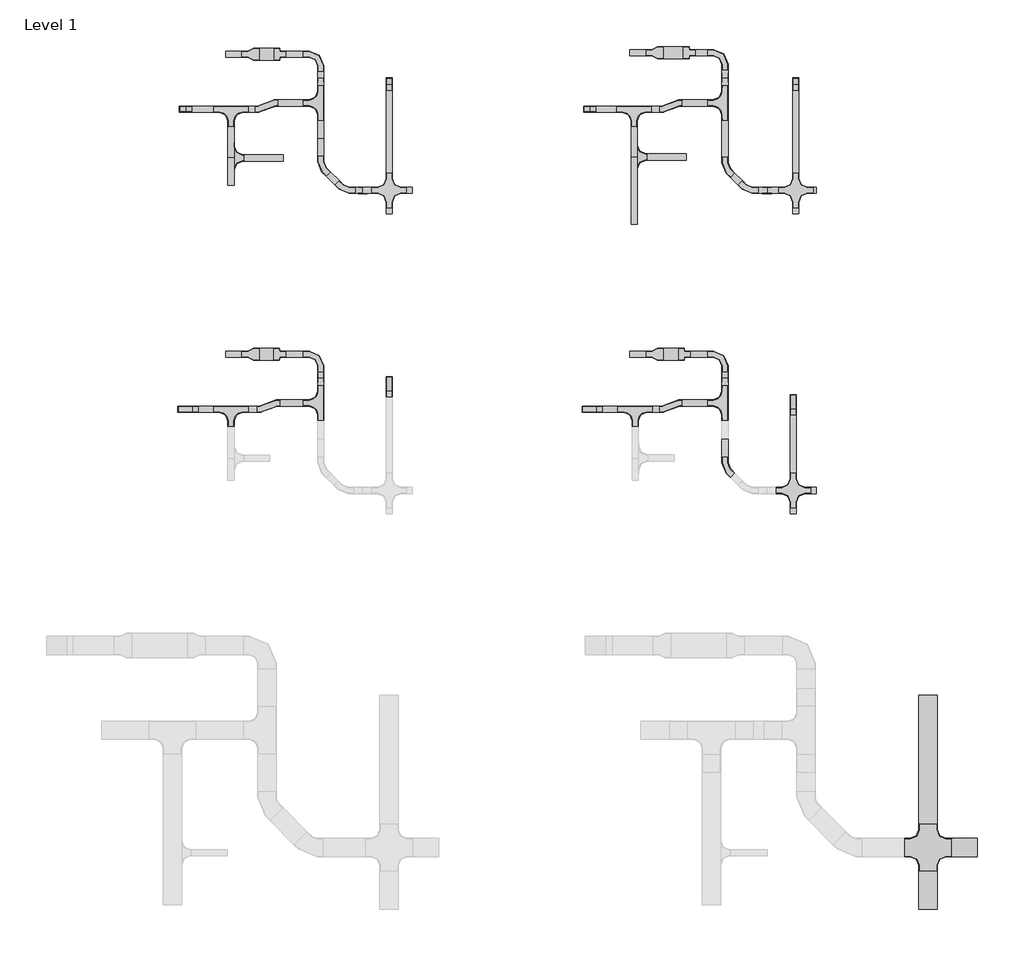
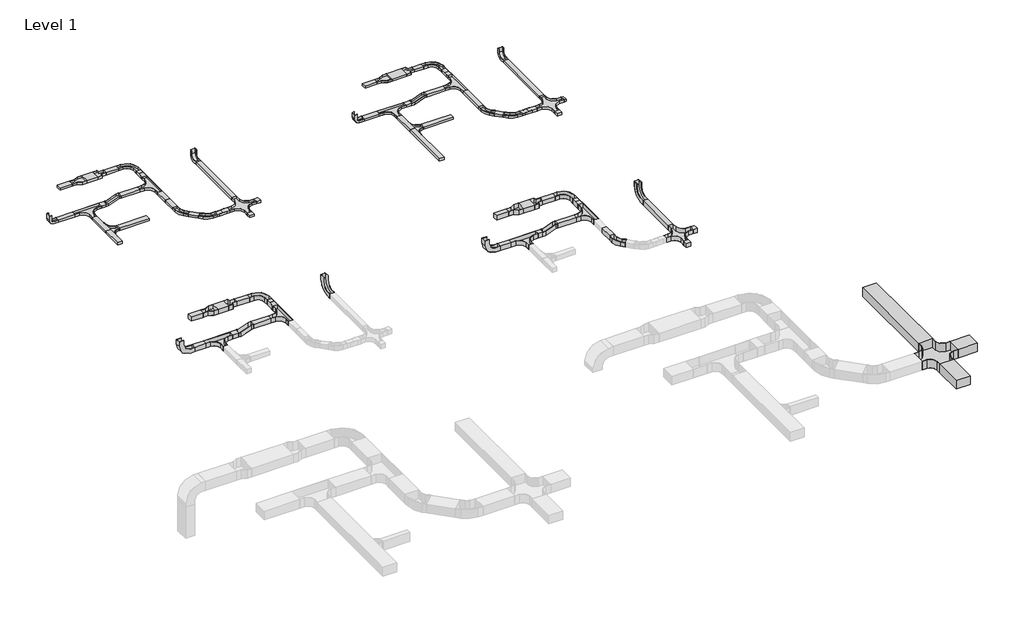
# One storey, part 7 of 7: 60 cable carrier segments, 49 cable carrier fittings.
"""IFC4 building model written with IfcOpenShell, lengths in millimetres."""

from ifc_helpers import new_model, si_unit, frame, origin, origin_with_axes, place, context, project, spatial, polyline, outline, extrude, transform, mapped, element, save
from components import cable_carrier_fitting_aaacfa07, cable_carrier_fitting_b0ef1419, cable_carrier_fitting_c29a8226, cable_carrier_fitting_cc7a867a, cable_carrier_fitting_e87cdf85, cable_carrier_fitting_c2d22de5, cable_carrier_fitting_a196cc36, cable_carrier_fitting_4de17e9c, cable_carrier_fitting_7e9f8960, cable_carrier_fitting_9eb58628, cable_carrier_fitting_43fa0a0a, cable_carrier_fitting_37f5b24e, cable_carrier_fitting_3771e234, cable_carrier_fitting_3d14474d, cable_carrier_fitting_1d79b922, cable_carrier_fitting_02b181c7, cable_carrier_fitting_d4cb8d73, cable_carrier_fitting_69659a00, cable_carrier_fitting_f591b558, cable_carrier_fitting_a9251f7c, cable_carrier_fitting_ed02f7b7, cable_carrier_fitting_6664680e, rkh100_6825da00, rkh100_78735ad3, rkh50_caab6538, rkh50_498854c9

model = new_model("IFC4")

# Units and contexts
model_context = context("Model", 3, world=origin())
ifc_project = project(units=[si_unit("LENGTHUNIT", "METRE", prefix="MILLI")], contexts=[model_context])

# Site, building, storey
site = spatial("IfcSite", under=ifc_project)
building = spatial("IfcBuilding", under=site)
storey = spatial("IfcBuildingStorey", under=building, Name="Level 1", Elevation=0.0)

# Cable carrier fittings
placement = place(None, origin())
cable_carrier_fitting_shape = cable_carrier_fitting_aaacfa07(model_context)
element("IfcCableCarrierFitting", 1, ObjectType="BAKS_Plate_connector : LZCH100", at=placement, inside=storey, context=model_context, shape_type="MappedRepresentation", body=[
    mapped(cable_carrier_fitting_shape, transform((-17370.1659964, 64549.0221963, 50.0), x_axis=(0.0, -1.0, 0.0), y_axis=(1.0, 0.0, 0.0), z_axis=(0.0, 0.0, 1.0))),
])
element("IfcCableCarrierFitting", 2, ObjectType="BAKS_Plate_connector : LZCH100", at=placement, inside=storey, context=model_context, shape_type="MappedRepresentation", body=[
    mapped(cable_carrier_fitting_shape, transform((-10770.1659964, 64549.0221963, 50.0), x_axis=(0.0, -1.0, 0.0), y_axis=(1.0, 0.0, 0.0), z_axis=(0.0, 0.0, 1.0))),
])
cable_carrier_fitting_2_shape = cable_carrier_fitting_b0ef1419(model_context)
element("IfcCableCarrierFitting", 3, ObjectType="BAKS_Plate_connector : LZCH50", at=placement, inside=storey, context=model_context, shape_type="MappedRepresentation", body=[
    mapped(cable_carrier_fitting_2_shape, transform((-17370.1659964, 69449.0221963, 50.0), x_axis=(0.0, -1.0, 0.0), y_axis=(1.0, 0.0, 0.0), z_axis=(0.0, 0.0, 1.0))),
])
element("IfcCableCarrierFitting", 4, ObjectType="BAKS_Plate_connector : LZCH50", at=placement, inside=storey, context=model_context, shape_type="MappedRepresentation", body=[
    mapped(cable_carrier_fitting_2_shape, transform((-16681.6917019, 67608.6669458, 50.0), x_axis=(-1.0, 0.0, 0.0), y_axis=(0.0, -1.0, 0.0), z_axis=(0.0, 0.0, 1.0))),
])
element("IfcCableCarrierFitting", 5, ObjectType="BAKS_Plate_connector : LZCH50", at=placement, inside=storey, context=model_context, shape_type="MappedRepresentation", body=[
    mapped(cable_carrier_fitting_2_shape, transform((-10770.1659964, 69449.0221963, 50.0), x_axis=(0.0, -1.0, 0.0), y_axis=(1.0, 0.0, 0.0), z_axis=(0.0, 0.0, 1.0))),
])
element("IfcCableCarrierFitting", 6, ObjectType="BAKS_Plate_connector : LZCH50", at=placement, inside=storey, context=model_context, shape_type="MappedRepresentation", body=[
    mapped(cable_carrier_fitting_2_shape, transform((-10081.6917019, 67608.6669458, 50.0), x_axis=(-1.0, 0.0, 0.0), y_axis=(0.0, -1.0, 0.0), z_axis=(0.0, 0.0, 1.0))),
])
cable_carrier_fitting_3_shape = cable_carrier_fitting_c29a8226(model_context)
element("IfcCableCarrierFitting", 7, ObjectType="BAKS_Tee_TKZD : TKZDCH50", at=placement, inside=storey, context=model_context, shape_type="MappedRepresentation", body=[
    mapped(cable_carrier_fitting_3_shape, transform((-18785.25983, 68137.8311496, 50.0), x_axis=(0.0, 1.0, 0.0), y_axis=(-1.0, 0.0, 0.0), z_axis=(0.0, 0.0, 1.0))),
])
element("IfcCableCarrierFitting", 8, ObjectType="BAKS_Tee_TKZD : TKZDPH50", at=placement, inside=storey, context=model_context, shape_type="MappedRepresentation", body=[
    mapped(cable_carrier_fitting_3_shape, transform((-12204.0106561, 68153.9153323, 50.0), x_axis=(0.0, 1.0, 0.0), y_axis=(-1.0, 0.0, 0.0), z_axis=(0.0, 0.0, 1.0))),
])
cable_carrier_fitting_4_shape = cable_carrier_fitting_cc7a867a(model_context)
element("IfcCableCarrierFitting", 9, ObjectType="BAKS_Tee_TKZ : TKZPH50", at=placement, inside=storey, context=model_context, shape_type="MappedRepresentation", body=[
    mapped(cable_carrier_fitting_4_shape, transform((-17370.1659964, 69036.0286879, 50.0), x_axis=(0.0, -1.0, 0.0), y_axis=(1.0, 0.0, 0.0), z_axis=(0.0, 0.0, 1.0))),
])
element("IfcCableCarrierFitting", 10, ObjectType="BAKS_Tee_TKZ : TKZPH50", at=placement, inside=storey, context=model_context, shape_type="MappedRepresentation", body=[
    mapped(cable_carrier_fitting_4_shape, transform((-18835.25983, 68936.0286879, 50.0), x_axis=(1.0, 0.0, 0.0), y_axis=(0.0, 1.0, 0.0), z_axis=(0.0, 0.0, 1.0))),
])
cable_carrier_fitting_5_shape = cable_carrier_fitting_e87cdf85(model_context)
element("IfcCableCarrierFitting", 11, ObjectType="BAKS_Tee_TKZ : TKZPH100", at=placement, inside=storey, context=model_context, shape_type="MappedRepresentation", body=[
    mapped(cable_carrier_fitting_5_shape, transform((-18835.25983, 64036.0286879, 50.0), x_axis=(1.0, 0.0, 0.0), y_axis=(0.0, 1.0, 0.0), z_axis=(0.0, 0.0, 1.0))),
])
element("IfcCableCarrierFitting", 12, ObjectType="BAKS_Tee_TKZ : TKZPH100", at=placement, inside=storey, context=model_context, shape_type="MappedRepresentation", body=[
    mapped(cable_carrier_fitting_5_shape, transform((-17370.1659964, 64136.0286879, 50.0), x_axis=(0.0, -1.0, 0.0), y_axis=(1.0, 0.0, 0.0), z_axis=(0.0, 0.0, 1.0))),
])
cable_carrier_fitting_6_shape = cable_carrier_fitting_c2d22de5(model_context)
element("IfcCableCarrierFitting", 13, ObjectType="BAKS_Tee_TKZ : TKZCH100", at=placement, inside=storey, context=model_context, shape_type="MappedRepresentation", body=[
    mapped(cable_carrier_fitting_6_shape, transform((-12235.25983, 64036.0286879, 50.0), x_axis=(1.0, 0.0, 0.0), y_axis=(0.0, 1.0, 0.0), z_axis=(0.0, 0.0, 1.0))),
])
element("IfcCableCarrierFitting", 14, ObjectType="BAKS_Tee_TKZ : TKZCH100", at=placement, inside=storey, context=model_context, shape_type="MappedRepresentation", body=[
    mapped(cable_carrier_fitting_6_shape, transform((-10770.1659964, 64136.0286879, 50.0), x_axis=(0.0, -1.0, 0.0), y_axis=(1.0, 0.0, 0.0), z_axis=(0.0, 0.0, 1.0))),
])
cable_carrier_fitting_7_shape = cable_carrier_fitting_a196cc36(model_context)
element("IfcCableCarrierFitting", 15, ObjectType="BAKS_Tee_TKZ : TKZCH50", at=placement, inside=storey, context=model_context, shape_type="MappedRepresentation", body=[
    mapped(cable_carrier_fitting_7_shape, transform((-12254.0106561, 68936.0286879, 50.0), x_axis=(1.0, 0.0, 0.0), y_axis=(0.0, 1.0, 0.0), z_axis=(0.0, 0.0, 1.0))),
])
element("IfcCableCarrierFitting", 16, ObjectType="BAKS_Tee_TKZ : TKZCH50", at=placement, inside=storey, context=model_context, shape_type="MappedRepresentation", body=[
    mapped(cable_carrier_fitting_7_shape, transform((-10770.1659964, 69036.0286879, 50.0), x_axis=(0.0, -1.0, 0.0), y_axis=(1.0, 0.0, 0.0), z_axis=(0.0, 0.0, 1.0))),
])
cable_carrier_fitting_8_shape = cable_carrier_fitting_4de17e9c(model_context)
element("IfcCableCarrierFitting", 17, ObjectType="BAKS_Cross-section_CZKZ : CZKZCH50", at=placement, inside=storey, context=model_context, shape_type="MappedRepresentation", body=[
    mapped(cable_carrier_fitting_8_shape, transform((-9612.4795393, 67608.6669458, 50.0), x_axis=(-1.0, 0.0, 0.0), y_axis=(0.0, -1.0, 0.0), z_axis=(0.0, 0.0, 1.0))),
])
cable_carrier_fitting_9_shape = cable_carrier_fitting_7e9f8960(model_context)
element("IfcCableCarrierFitting", 18, ObjectType="BAKS_Cross-section_CZKZ : CZKZCH100", at=placement, inside=storey, context=model_context, shape_type="MappedRepresentation", body=[
    mapped(cable_carrier_fitting_9_shape, transform((-9653.0791495, 62708.6669458, 50.0), x_axis=(1.0, 0.0, 0.0), y_axis=(0.0, 1.0, 0.0), z_axis=(0.0, 0.0, 1.0))),
])
element("IfcCableCarrierFitting", 19, ObjectType="BAKS_Cross-section_CZKZ : CZKZPH50", at=placement, inside=storey, context=model_context, shape_type="MappedRepresentation", body=[
    mapped(cable_carrier_fitting_8_shape, transform((-16253.0791495, 67608.6669458, 50.0), x_axis=(0.0, 1.0, 0.0), y_axis=(-1.0, 0.0, 0.0), z_axis=(0.0, 0.0, 1.0))),
])
cable_carrier_fitting_10_shape = cable_carrier_fitting_9eb58628(model_context)
element("IfcCableCarrierFitting", 20, ObjectType="BAKS_Reduction-symmetrical_RKZ : RKZPH50", at=placement, inside=storey, context=model_context, shape_type="MappedRepresentation", body=[
    mapped(cable_carrier_fitting_10_shape, transform((-18365.6659964, 69832.0157047, 50.0), x_axis=(-1.0, 0.0, 0.0), y_axis=(0.0, -1.0, 0.0), z_axis=(0.0, 0.0, 1.0))),
])
cable_carrier_fitting_11_shape = cable_carrier_fitting_43fa0a0a(model_context)
element("IfcCableCarrierFitting", 21, ObjectType="BAKS_Reduction-symmetrical_RKZ : RKZPH100", at=placement, inside=storey, context=model_context, shape_type="MappedRepresentation", body=[
    mapped(cable_carrier_fitting_11_shape, transform((-18365.6659964, 64932.0157047, 50.0), x_axis=(-1.0, 0.0, 0.0), y_axis=(0.0, -1.0, 0.0), z_axis=(0.0, 0.0, 1.0))),
])
element("IfcCableCarrierFitting", 22, ObjectType="BAKS_Reduction-symmetrical_RKZ : RKZCH50", at=placement, inside=storey, context=model_context, shape_type="MappedRepresentation", body=[
    mapped(cable_carrier_fitting_10_shape, transform((-11765.6659964, 69857.0157047, 50.0), x_axis=(-1.0, 0.0, 0.0), y_axis=(0.0, -1.0, 0.0), z_axis=(0.0, 0.0, 1.0))),
])
element("IfcCableCarrierFitting", 23, ObjectType="BAKS_Reduction-symmetrical_RKZ : RKZCH100", at=placement, inside=storey, context=model_context, shape_type="MappedRepresentation", body=[
    mapped(cable_carrier_fitting_11_shape, transform((-11765.6659964, 64932.0157047, 50.0), x_axis=(-1.0, 0.0, 0.0), y_axis=(0.0, -1.0, 0.0), z_axis=(0.0, 0.0, 1.0))),
])
cable_carrier_fitting_12_shape = cable_carrier_fitting_37f5b24e(model_context)
element("IfcCableCarrierFitting", 24, ObjectType="BAKS_Bypass_horizontal_left_OPZL : OPZLCH50", at=placement, inside=storey, context=model_context, shape_type="MappedRepresentation", body=[
    mapped(cable_carrier_fitting_12_shape, transform((-11655.25983, 68986.0286879, 25.0), x_axis=(1.0, 0.0, 0.0), y_axis=(0.0, 1.0, 0.0), z_axis=(0.0, 0.0, 1.0))),
])
cable_carrier_fitting_13_shape = cable_carrier_fitting_3771e234(model_context)
element("IfcCableCarrierFitting", 25, ObjectType="BAKS_Bypass_horizontal_left_OPZL : OPZLCH100", at=placement, inside=storey, context=model_context, shape_type="MappedRepresentation", body=[
    mapped(cable_carrier_fitting_13_shape, transform((-11655.25983, 64086.0286879, 0.0), x_axis=(1.0, 0.0, 0.0), y_axis=(0.0, 1.0, 0.0), z_axis=(0.0, 0.0, 1.0))),
])
cable_carrier_fitting_14_shape = cable_carrier_fitting_3d14474d(model_context)
element("IfcCableCarrierFitting", 26, ObjectType="BAKS_Bypass_horizontal_left_OPZL : OPZLPH50", at=placement, inside=storey, context=model_context, shape_type="MappedRepresentation", body=[
    mapped(cable_carrier_fitting_14_shape, transform((-18255.25983, 68986.0286879, 25.0), x_axis=(1.0, 0.0, 0.0), y_axis=(0.0, 1.0, 0.0), z_axis=(0.0, 0.0, 1.0))),
])
cable_carrier_fitting_15_shape = cable_carrier_fitting_1d79b922(model_context)
element("IfcCableCarrierFitting", 27, ObjectType="BAKS_Bypass_horizontal_left_OPZL : OPZLPH100", at=placement, inside=storey, context=model_context, shape_type="MappedRepresentation", body=[
    mapped(cable_carrier_fitting_15_shape, transform((-18225.25983, 64086.0286879, 0.0), x_axis=(1.0, 0.0, 0.0), y_axis=(0.0, 1.0, 0.0), z_axis=(0.0, 0.0, 1.0))),
])
cable_carrier_fitting_16_shape = cable_carrier_fitting_02b181c7(model_context)
element("IfcCableCarrierFitting", 28, ObjectType="BAKS_Elbow_KKZ : KKZP/KKZMP...H50", at=placement, inside=storey, context=model_context, shape_type="MappedRepresentation", body=[
    mapped(cable_carrier_fitting_16_shape, transform((-16980.3042544, 67608.6669458, 50.0), x_axis=(0.7071067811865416, -0.7071067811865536, 0.0), y_axis=(0.7071067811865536, 0.7071067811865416, 0.0), z_axis=(0.0, 0.0, 1.0))),
])
element("IfcCableCarrierFitting", 29, ObjectType="BAKS_Elbow_KKZ : KKZP/KKZMP...H50", at=placement, inside=storey, context=model_context, shape_type="MappedRepresentation", body=[
    mapped(cable_carrier_fitting_16_shape, transform((-17370.1659964, 67998.5286879, 50.0), x_axis=(0.0, -1.0, 0.0), y_axis=(1.0, 0.0, 0.0), z_axis=(0.0, 0.0, 1.0))),
])
element("IfcCableCarrierFitting", 30, ObjectType="BAKS_Elbow_KKZ : KKZC/KKZMC...H50", at=placement, inside=storey, context=model_context, shape_type="MappedRepresentation", body=[
    mapped(cable_carrier_fitting_16_shape, transform((-10399.0048312, 67608.6669458, 50.0), x_axis=(0.707106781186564, -0.707106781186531, 0.0), y_axis=(0.707106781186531, 0.707106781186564, 0.0), z_axis=(0.0, 0.0, 1.0))),
])
element("IfcCableCarrierFitting", 31, ObjectType="BAKS_Elbow_KKZ : KKZC/KKZMC...H50", at=placement, inside=storey, context=model_context, shape_type="MappedRepresentation", body=[
    mapped(cable_carrier_fitting_16_shape, transform((-10770.1659964, 67979.8281111, 50.0), x_axis=(0.0, -1.0, 0.0), y_axis=(1.0, 0.0, 0.0), z_axis=(0.0, 0.0, 1.0))),
])
cable_carrier_fitting_17_shape = cable_carrier_fitting_d4cb8d73(model_context)
element("IfcCableCarrierFitting", 32, ObjectType="BAKS_Elbow_KKZ : KKZC/KKZMC...H100", at=placement, inside=storey, context=model_context, shape_type="MappedRepresentation", body=[
    mapped(cable_carrier_fitting_17_shape, transform((-10770.1659964, 63079.8281111, 50.0), x_axis=(0.0, -1.0, 0.0), y_axis=(1.0, 0.0, 0.0), z_axis=(0.0, 0.0, 1.0))),
])
cable_carrier_fitting_18_shape = cable_carrier_fitting_69659a00(model_context)
element("IfcCableCarrierFitting", 33, ObjectType="BAKS_Elbow_KKZ : KKZC/KKZMC...H100", at=placement, inside=storey, context=model_context, shape_type="MappedRepresentation", body=[
    mapped(cable_carrier_fitting_18_shape, transform((-10770.1659964, 64932.0157047, 50.0), x_axis=(0.0, 1.0, 0.0), y_axis=(-1.0, 0.0, 0.0), z_axis=(0.0, 0.0, 1.0))),
])
cable_carrier_fitting_19_shape = cable_carrier_fitting_f591b558(model_context)
element("IfcCableCarrierFitting", 34, ObjectType="BAKS_Elbow_KKZ : KKZC/KKZMC...H50", at=placement, inside=storey, context=model_context, shape_type="MappedRepresentation", body=[
    mapped(cable_carrier_fitting_19_shape, transform((-10770.1659964, 69857.0157047, 50.0), x_axis=(0.0, 1.0, 0.0), y_axis=(-1.0, 0.0, 0.0), z_axis=(0.0, 0.0, 1.0))),
])
element("IfcCableCarrierFitting", 35, ObjectType="BAKS_Elbow_KKZ : KKZC/KKZMC...H50", at=placement, inside=storey, context=model_context, shape_type="MappedRepresentation", body=[
    mapped(cable_carrier_fitting_19_shape, transform((-17370.1659964, 69832.0157047, 50.0), x_axis=(0.0, 1.0, 0.0), y_axis=(-1.0, 0.0, 0.0), z_axis=(0.0, 0.0, 1.0))),
])
element("IfcCableCarrierFitting", 36, ObjectType="BAKS_Elbow_KKZ : KKZP/KKZMP...H100", at=placement, inside=storey, context=model_context, shape_type="MappedRepresentation", body=[
    mapped(cable_carrier_fitting_18_shape, transform((-17370.1659964, 64932.0157047, 50.0), x_axis=(0.0, 1.0, 0.0), y_axis=(-1.0, 0.0, 0.0), z_axis=(0.0, 0.0, 1.0))),
])
cable_carrier_fitting_20_shape = cable_carrier_fitting_a9251f7c(model_context)
element("IfcCableCarrierFitting", 37, ObjectType="BAKS_Vertical_bend_int : LZWPH50/LZWMPH50", at=placement, inside=storey, context=model_context, shape_type="MappedRepresentation", body=[
    mapped(cable_carrier_fitting_20_shape, transform((-19652.5998175, 68936.0286879, 50.0), x_axis=(-1.0, 0.0, 0.0), y_axis=(0.0, 0.0, 1.0), z_axis=(0.0, 1.0, 0.0))),
])
element("IfcCableCarrierFitting", 38, ObjectType="BAKS_Vertical_bend_int : LZWPH50/LZWMPH50", at=placement, inside=storey, context=model_context, shape_type="MappedRepresentation", body=[
    mapped(cable_carrier_fitting_20_shape, transform((-16253.0791495, 69418.5286879, 50.0), x_axis=(0.0, 1.0, 0.0), y_axis=(0.0, 0.0, 1.0), z_axis=(1.0, 0.0, 0.0))),
])
element("IfcCableCarrierFitting", 39, ObjectType="BAKS_Vertical_bend_int : LZWCH50/LZWMCH50", at=placement, inside=storey, context=model_context, shape_type="MappedRepresentation", body=[
    mapped(cable_carrier_fitting_20_shape, transform((-13052.5998175, 68936.0286879, 50.0), x_axis=(-1.0, 0.0, 0.0), y_axis=(0.0, 0.0, 1.0), z_axis=(0.0, 1.0, 0.0))),
])
element("IfcCableCarrierFitting", 40, ObjectType="BAKS_Vertical_bend_int : LZWCH50/LZWMCH50", at=placement, inside=storey, context=model_context, shape_type="MappedRepresentation", body=[
    mapped(cable_carrier_fitting_20_shape, transform((-9612.4795393, 69418.5286879, 50.0), x_axis=(0.0, 1.0, 0.0), y_axis=(0.0, 0.0, 1.0), z_axis=(1.0, 0.0, 0.0))),
])
cable_carrier_fitting_21_shape = cable_carrier_fitting_ed02f7b7(model_context)
element("IfcCableCarrierFitting", 41, ObjectType="BAKS_Vertical_bend_int : LZWPH100/LZWMPH100", at=placement, inside=storey, context=model_context, shape_type="MappedRepresentation", body=[
    mapped(cable_carrier_fitting_21_shape, transform((-19652.5998175, 64036.0286879, 50.0), x_axis=(-1.0, 0.0, 0.0), y_axis=(0.0, 0.0, 1.0), z_axis=(0.0, 1.0, 0.0))),
])
element("IfcCableCarrierFitting", 42, ObjectType="BAKS_Vertical_bend_int : LZWPH100/LZWMPH100", at=placement, inside=storey, context=model_context, shape_type="MappedRepresentation", body=[
    mapped(cable_carrier_fitting_21_shape, transform((-16253.0791495, 64518.5286879, 50.0), x_axis=(0.0, 1.0, 0.0), y_axis=(0.0, 0.0, 1.0), z_axis=(1.0, 0.0, 0.0))),
])
element("IfcCableCarrierFitting", 43, ObjectType="BAKS_Vertical_bend_int : LZWCH100/LZWMCH100", at=placement, inside=storey, context=model_context, shape_type="MappedRepresentation", body=[
    mapped(cable_carrier_fitting_21_shape, transform((-13052.5998175, 64036.0286879, 50.0), x_axis=(-1.0, 0.0, 0.0), y_axis=(0.0, 0.0, 1.0), z_axis=(0.0, 1.0, 0.0))),
])
element("IfcCableCarrierFitting", 44, ObjectType="BAKS_Vertical_bend_int : LZWCH100/LZWMCH100", at=placement, inside=storey, context=model_context, shape_type="MappedRepresentation", body=[
    mapped(cable_carrier_fitting_21_shape, transform((-9653.0791495, 64224.4806879, 50.0), x_axis=(0.0, 1.0, 0.0), y_axis=(0.0, 0.0, 1.0), z_axis=(1.0, 0.0, 0.0))),
])
cable_carrier_fitting_22_shape = cable_carrier_fitting_6664680e(model_context)
element("IfcCableCarrierFitting", 45, ObjectType="BAKS_Cross-section_CZKZ : CZKZCH200", at=placement, inside=storey, context=model_context, shape_type="MappedRepresentation", body=[
    mapped(cable_carrier_fitting_22_shape, transform((-7453.0791495, 56877.2563463, 50.0), x_axis=(1.0, 0.0, 0.0), y_axis=(0.0, 1.0, 0.0), z_axis=(0.0, 0.0, 1.0))),
])
rkh100_shape = rkh100_6825da00(model_context)
element("IfcCableCarrierFitting", 46, ObjectType="BAKS_Reduction-angular_RK : RKH100", at=placement, inside=storey, context=model_context, shape_type="MappedRepresentation", body=[
    mapped(rkh100_shape, transform((-18145.0768381, 64932.0157047, 50.0), x_axis=(1.0, 0.0, 0.0), y_axis=(0.0, 1.0, 0.0), z_axis=(0.0, 0.0, 1.0))),
])
rkh100_2_shape = rkh100_78735ad3(model_context)
element("IfcCableCarrierFitting", 47, ObjectType="BAKS_Reduction-angular_RK : RKH100", at=placement, inside=storey, context=model_context, shape_type="MappedRepresentation", body=[
    mapped(rkh100_2_shape, transform((-11325.6659964, 64932.0157047, 50.0), x_axis=(-1.0, 0.0, 0.0), y_axis=(0.0, -1.0, 0.0), z_axis=(0.0, 0.0, 1.0))),
])
rkh50_shape = rkh50_caab6538(model_context)
element("IfcCableCarrierFitting", 48, ObjectType="BAKS_Reduction-angular_RK : RKH50", at=placement, inside=storey, context=model_context, shape_type="MappedRepresentation", body=[
    mapped(rkh50_shape, transform((-18139.8801987, 69832.0157047, 50.0), x_axis=(1.0, 0.0, 0.0), y_axis=(0.0, 1.0, 0.0), z_axis=(0.0, 0.0, 1.0))),
])
rkh50_2_shape = rkh50_498854c9(model_context)
element("IfcCableCarrierFitting", 49, ObjectType="BAKS_Reduction-angular_RK : RKH50", at=placement, inside=storey, context=model_context, shape_type="MappedRepresentation", body=[
    mapped(rkh50_2_shape, transform((-11245.6659964, 69857.0157047, 50.0), x_axis=(-1.0, 0.0, 0.0), y_axis=(0.0, -1.0, 0.0), z_axis=(0.0, 0.0, 1.0))),
])

# Cable carrier segments
element("IfcCableCarrierSegment", 50, ObjectType="BAKS - Cable tray H50 (KZP)", at=placement, inside=storey, context=model_context, shape_type="SweptSolid", body=[
    extrude(outline(polyline([(-17320.1659964, 69449.0221963), (-17420.1659964, 69449.0221963), (-17420.1659964, 69542.0157047), (-17320.1659964, 69542.0157047), (-17320.1659964, 69449.0221963)])), frame((0.0, 0.0, 25.0), z_axis=(0.0, 0.0, 1.0), x_axis=(1.0, 0.0, 0.0)), (0.0, 0.0, 1.0), 50.0),
])
element("IfcCableCarrierSegment", 51, ObjectType="BAKS - Cable tray H50 (KZP)", at=placement, inside=storey, context=model_context, shape_type="SweptSolid", body=[
    extrude(outline(polyline([(-17660.1659964, 69086.0286879), (-17660.1659964, 68986.0286879), (-18065.25983, 68986.0286879), (-18065.25983, 69086.0286879), (-17660.1659964, 69086.0286879)])), frame((0.0, 0.0, 25.0), z_axis=(0.0, 0.0, 1.0), x_axis=(1.0, 0.0, 0.0)), (0.0, 0.0, 1.0), 50.0),
])
element("IfcCableCarrierSegment", 52, ObjectType="BAKS - Cable tray H50 (KZP)", at=placement, inside=storey, context=model_context, shape_type="SweptSolid", body=[
    extrude(outline(polyline([(-17320.1659964, 68177.2292648), (-17420.1659964, 68177.2292648), (-17420.1659964, 68452.2786879), (-17320.1659964, 68452.2786879), (-17320.1659964, 68177.2292648)])), frame((0.0, 0.0, 25.0), z_axis=(0.0, 0.0, 1.0), x_axis=(1.0, 0.0, 0.0)), (0.0, 0.0, 1.0), 50.0),
])
element("IfcCableCarrierSegment", 53, ObjectType="BAKS - Cable tray H50 (KZP)", at=placement, inside=storey, context=model_context, shape_type="SweptSolid", body=[
    extrude(outline(polyline([(-15963.0791495, 67558.6669458), (-15963.0791495, 67658.6669458), (-15879.0048312, 67658.6669458), (-15879.0048312, 67558.6669458), (-15963.0791495, 67558.6669458)])), frame((0.0, 0.0, 25.0), z_axis=(0.0, 0.0, 1.0), x_axis=(1.0, 0.0, 0.0)), (0.0, 0.0, 1.0), 50.0),
])
element("IfcCableCarrierSegment", 54, ObjectType="BAKS - Cable tray H50 (KZP)", at=placement, inside=storey, context=model_context, shape_type="SweptSolid", body=[
    extrude(outline(polyline([(-16203.0791495, 67228.6910816), (-16303.0791495, 67228.6910816), (-16303.0791495, 67318.6669458), (-16203.0791495, 67318.6669458), (-16203.0791495, 67228.6910816)])), frame((0.0, 0.0, 25.0), z_axis=(0.0, 0.0, 1.0), x_axis=(1.0, 0.0, 0.0)), (0.0, 0.0, 1.0), 50.0),
])
element("IfcCableCarrierSegment", 55, ObjectType="BAKS - Cable tray H50 (KZP)", at=placement, inside=storey, context=model_context, shape_type="SweptSolid", body=[
    extrude(outline(polyline([(-16681.6917019, 67558.6669458), (-16681.6917019, 67658.6669458), (-16543.0791495, 67658.6669458), (-16543.0791495, 67558.6669458), (-16681.6917019, 67558.6669458)])), frame((0.0, 0.0, 25.0), z_axis=(0.0, 0.0, 1.0), x_axis=(1.0, 0.0, 0.0)), (0.0, 0.0, 1.0), 50.0),
])
element("IfcCableCarrierSegment", 56, ObjectType="BAKS - Cable tray H50 (KZP)", at=placement, inside=storey, context=model_context, shape_type="SweptSolid", body=[
    extrude(outline(polyline([(-17320.1659964, 69326.0286879), (-17420.1659964, 69326.0286879), (-17420.1659964, 69448.0221963), (-17320.1659964, 69448.0221963), (-17320.1659964, 69326.0286879)])), frame((0.0, 0.0, 25.0), z_axis=(0.0, 0.0, 1.0), x_axis=(1.0, 0.0, 0.0)), (0.0, 0.0, 1.0), 50.0),
])
element("IfcCableCarrierSegment", 57, ObjectType="BAKS - Cable tray H50 (KZP)", at=placement, inside=storey, context=model_context, shape_type="SweptSolid", body=[
    extrude(outline(polyline([(-17420.1659964, 68746.0286879), (-17320.1659964, 68746.0286879), (-17320.1659964, 68453.2786879), (-17420.1659964, 68453.2786879), (-17420.1659964, 68746.0286879)])), frame((0.0, 0.0, 25.0), z_axis=(0.0, 0.0, 1.0), x_axis=(1.0, 0.0, 0.0)), (0.0, 0.0, 1.0), 50.0),
])
element("IfcCableCarrierSegment", 58, ObjectType="BAKS - Cable tray H50 (KZP)", at=placement, inside=storey, context=model_context, shape_type="SweptSolid", body=[
    extrude(outline(polyline([(-17929.8801987, 69782.0157047), (-17929.8801987, 69882.0157047), (-17660.1659964, 69882.0157047), (-17660.1659964, 69782.0157047), (-17929.8801987, 69782.0157047)])), frame((0.0, 0.0, 25.0), z_axis=(0.0, 0.0, 1.0), x_axis=(1.0, 0.0, 0.0)), (0.0, 0.0, 1.0), 50.0),
])
element("IfcCableCarrierSegment", 59, ObjectType="BAKS - Cable tray H50 (KZP)", at=placement, inside=storey, context=model_context, shape_type="SweptSolid", body=[
    extrude(outline(polyline([(-18139.8801987, 69932.0157047), (-18139.8801987, 69732.0157047), (-18365.6659964, 69732.0157047), (-18365.6659964, 69932.0157047), (-18139.8801987, 69932.0157047)])), frame((0.0, 0.0, 25.0), z_axis=(0.0, 0.0, 1.0), x_axis=(1.0, 0.0, 0.0)), (0.0, 0.0, 1.0), 50.0),
])
element("IfcCableCarrierSegment", 60, ObjectType="BAKS - Cable tray H50 (KZP)", at=placement, inside=storey, context=model_context, shape_type="SweptSolid", body=[
    extrude(outline(polyline([(-18665.6659964, 69882.0157047), (-18665.6659964, 69782.0157047), (-18924.6659964, 69782.0157047), (-18924.6659964, 69882.0157047), (-18665.6659964, 69882.0157047)])), frame((0.0, 0.0, 25.0), z_axis=(0.0, 0.0, 1.0), x_axis=(1.0, 0.0, 0.0)), (0.0, 0.0, 1.0), 50.0),
])
element("IfcCableCarrierSegment", 61, ObjectType="BAKS - Cable tray H50 (KZP)", at=placement, inside=storey, context=model_context, shape_type="SweptSolid", body=[
    extrude(outline(polyline([(-18445.25983, 68986.0286879), (-18445.25983, 68886.0286879), (-18545.25983, 68886.0286879), (-18545.25983, 68986.0286879), (-18445.25983, 68986.0286879)])), frame((0.0, 0.0, 25.0), z_axis=(0.0, 0.0, 1.0), x_axis=(1.0, 0.0, 0.0)), (0.0, 0.0, 1.0), 50.0),
])
element("IfcCableCarrierSegment", 62, ObjectType="BAKS - Cable tray H50 (KZP)", at=placement, inside=storey, context=model_context, shape_type="SweptSolid", body=[
    extrude(outline(polyline([(-18785.25983, 68138.373241), (-18885.25983, 68138.373241), (-18885.25983, 68646.0286879), (-18785.25983, 68646.0286879), (-18785.25983, 68138.373241)])), frame((0.0, 0.0, 25.0), z_axis=(0.0, 0.0, 1.0), x_axis=(1.0, 0.0, 0.0)), (0.0, 0.0, 1.0), 50.0),
])
element("IfcCableCarrierSegment", 63, ObjectType="BAKS - Cable tray H50 (KZP)", at=placement, inside=storey, context=model_context, shape_type="SweptSolid", body=[
    extrude(outline(polyline([(-18620.17983, 68087.8311496), (-18620.17983, 68187.8311496), (-17982.25983, 68187.8311496), (-17982.25983, 68087.8311496), (-18620.17983, 68087.8311496)])), frame((0.0, 0.0, 25.0), z_axis=(0.0, 0.0, 1.0), x_axis=(1.0, 0.0, 0.0)), (0.0, 0.0, 1.0), 50.0),
])
element("IfcCableCarrierSegment", 64, ObjectType="BAKS - Cable tray H50 (KZP)", at=placement, inside=storey, context=model_context, shape_type="SweptSolid", body=[
    extrude(outline(polyline([(-19125.25983, 68986.0286879), (-19125.25983, 68886.0286879), (-19467.5998175, 68886.0286879), (-19467.5998175, 68986.0286879), (-19125.25983, 68986.0286879)])), frame((0.0, 0.0, 25.0), z_axis=(0.0, 0.0, 1.0), x_axis=(1.0, 0.0, 0.0)), (0.0, 0.0, 1.0), 50.0),
])
element("IfcCableCarrierSegment", 65, ObjectType="BAKS - Cable tray H50 (KZP)", at=placement, inside=storey, context=model_context, shape_type="SweptSolid", body=[
    extrude(outline(polyline([(-16203.0791495, 67898.6669458), (-16303.0791495, 67898.6669458), (-16303.0791495, 69233.5286879), (-16203.0791495, 69233.5286879), (-16203.0791495, 67898.6669458)])), frame((0.0, 0.0, 25.0), z_axis=(0.0, 0.0, 1.0), x_axis=(1.0, 0.0, 0.0)), (0.0, 0.0, 1.0), 50.0),
])
element("IfcCableCarrierSegment", 66, ObjectType="BAKS - Cable tray H50 (KZC)", at=placement, inside=storey, context=model_context, shape_type="SweptSolid", body=[
    extrude(outline(polyline([(-11455.6659964, 69957.0157047), (-11455.6659964, 69757.0157047), (-11765.6659964, 69757.0157047), (-11765.6659964, 69957.0157047), (-11455.6659964, 69957.0157047)])), frame((0.0, 0.0, 25.0), z_axis=(0.0, 0.0, 1.0), x_axis=(1.0, 0.0, 0.0)), (0.0, 0.0, 1.0), 50.0),
])
element("IfcCableCarrierSegment", 67, ObjectType="BAKS - Cable tray H50 (KZC)", at=placement, inside=storey, context=model_context, shape_type="SweptSolid", body=[
    extrude(outline(polyline([(-12065.6659964, 69907.0157047), (-12065.6659964, 69807.0157047), (-12324.6659964, 69807.0157047), (-12324.6659964, 69907.0157047), (-12065.6659964, 69907.0157047)])), frame((0.0, 0.0, 25.0), z_axis=(0.0, 0.0, 1.0), x_axis=(1.0, 0.0, 0.0)), (0.0, 0.0, 1.0), 50.0),
])
element("IfcCableCarrierSegment", 68, ObjectType="BAKS - Cable tray H50 (KZC)", at=placement, inside=storey, context=model_context, shape_type="SweptSolid", body=[
    extrude(outline(polyline([(0.0, -100.0), (0.0, 0.0), (118.7508261, 0.0), (118.7508261, -100.0), (0.0, -100.0)])), frame((-11845.25983, 68886.0286879, 25.0), z_axis=(-1.0669016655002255e-12, 0.0, 1.0), x_axis=(-1.0, 0.0, -1.0669016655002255e-12)), (0.0, 0.0, 1.0), 50.0),
])
element("IfcCableCarrierSegment", 69, ObjectType="BAKS - Cable tray H50 (KZC)", at=placement, inside=storey, context=model_context, shape_type="SweptSolid", body=[
    extrude(outline(polyline([(-12544.0106561, 68986.0286879), (-12544.0106561, 68886.0286879), (-12867.5998175, 68886.0286879), (-12867.5998175, 68986.0286879), (-12544.0106561, 68986.0286879)])), frame((0.0, 0.0, 25.0), z_axis=(0.0, 0.0, 1.0), x_axis=(1.0, 0.0, 0.0)), (0.0, 0.0, 1.0), 50.0),
])
element("IfcCableCarrierSegment", 70, ObjectType="BAKS - Cable tray H50 (KZC)", at=placement, inside=storey, context=model_context, shape_type="SweptSolid", body=[
    extrude(outline(polyline([(-12304.0106561, 68646.0286879), (-12204.0106561, 68646.0286879), (-12204.0106561, 68154.4574237), (-12304.0106561, 68154.4574237), (-12304.0106561, 68646.0286879)])), frame((0.0, 0.0, 25.0), z_axis=(0.0, 0.0, 1.0), x_axis=(1.0, 0.0, 0.0)), (0.0, 0.0, 1.0), 50.0),
])
element("IfcCableCarrierSegment", 71, ObjectType="BAKS - Cable tray H50 (KZC)", at=placement, inside=storey, context=model_context, shape_type="SweptSolid", body=[
    extrude(outline(polyline([(-12304.0106561, 68153.373241), (-12204.0106561, 68153.373241), (-12204.0106561, 67057.5364793), (-12304.0106561, 67057.5364793), (-12304.0106561, 68153.373241)])), frame((0.0, 0.0, 25.0), z_axis=(0.0, 0.0, 1.0), x_axis=(1.0, 0.0, 0.0)), (0.0, 0.0, 1.0), 50.0),
])
element("IfcCableCarrierSegment", 72, ObjectType="BAKS - Reinforced cable tray H100 (KZWP)", at=placement, inside=storey, context=model_context, shape_type="SweptSolid", body=[
    extrude(outline(polyline([(-18665.6659964, 64982.0157047), (-18665.6659964, 64882.0157047), (-18924.6659964, 64882.0157047), (-18924.6659964, 64982.0157047), (-18665.6659964, 64982.0157047)])), origin_with_axes(), (0.0, 0.0, 1.0), 100.0),
])
element("IfcCableCarrierSegment", 73, ObjectType="BAKS - Reinforced cable tray H100 (KZWP)", at=placement, inside=storey, context=model_context, shape_type="SweptSolid", body=[
    extrude(outline(polyline([(-18365.6659964, 64832.0157047), (-18365.6659964, 65032.0157047), (-18145.0768381, 65032.0157047), (-18145.0768381, 64832.0157047), (-18365.6659964, 64832.0157047)])), origin_with_axes(), (0.0, 0.0, 1.0), 100.0),
])
element("IfcCableCarrierSegment", 74, ObjectType="BAKS - Reinforced cable tray H100 (KZWP)", at=placement, inside=storey, context=model_context, shape_type="SweptSolid", body=[
    extrude(outline(polyline([(-18415.25983, 64086.0286879), (-18415.25983, 63986.0286879), (-18545.25983, 63986.0286879), (-18545.25983, 64086.0286879), (-18415.25983, 64086.0286879)])), origin_with_axes(), (0.0, 0.0, 1.0), 100.0),
])
element("IfcCableCarrierSegment", 75, ObjectType="BAKS - Reinforced cable tray H100 (KZWP)", at=placement, inside=storey, context=model_context, shape_type="SweptSolid", body=[
    extrude(outline(polyline([(-19362.5998175, 63986.0286879), (-19362.5998175, 64086.0286879), (-19125.25983, 64086.0286879), (-19125.25983, 63986.0286879), (-19362.5998175, 63986.0286879)])), origin_with_axes(), (0.0, 0.0, 1.0), 100.0),
])
element("IfcCableCarrierSegment", 76, ObjectType="BAKS - Cable tray H100 (KZC)", at=placement, inside=storey, context=model_context, shape_type="SweptSolid", body=[
    extrude(outline(polyline([(-12065.6659964, 64982.0157047), (-12065.6659964, 64882.0157047), (-12324.6659964, 64882.0157047), (-12324.6659964, 64982.0157047), (-12065.6659964, 64982.0157047)])), origin_with_axes(), (0.0, 0.0, 1.0), 100.0),
])
element("IfcCableCarrierSegment", 77, ObjectType="BAKS - Cable tray H100 (KZC)", at=placement, inside=storey, context=model_context, shape_type="SweptSolid", body=[
    extrude(outline(polyline([(-11765.6659964, 64832.0157047), (-11765.6659964, 65032.0157047), (-11535.6659964, 65032.0157047), (-11535.6659964, 64832.0157047), (-11765.6659964, 64832.0157047)])), origin_with_axes(), (0.0, 0.0, 1.0), 100.0),
])
element("IfcCableCarrierSegment", 78, ObjectType="BAKS - Cable tray H100 (KZC)", at=placement, inside=storey, context=model_context, shape_type="SweptSolid", body=[
    extrude(outline(polyline([(-11845.25983, 64086.0286879), (-11845.25983, 63986.0286879), (-11945.25983, 63986.0286879), (-11945.25983, 64086.0286879), (-11845.25983, 64086.0286879)])), origin_with_axes(), (0.0, 0.0, 1.0), 100.0),
])
element("IfcCableCarrierSegment", 79, ObjectType="BAKS - Cable tray H100 (KZC)", at=placement, inside=storey, context=model_context, shape_type="SweptSolid", body=[
    extrude(outline(polyline([(-12762.5998175, 63986.0286879), (-12762.5998175, 64086.0286879), (-12525.25983, 64086.0286879), (-12525.25983, 63986.0286879), (-12762.5998175, 63986.0286879)])), origin_with_axes(), (0.0, 0.0, 1.0), 100.0),
])
element("IfcCableCarrierSegment", 80, ObjectType="BAKS - Cable tray H50 (KZP)", at=placement, inside=storey, context=model_context, shape_type="SweptSolid", body=[
    extrude(outline(polyline([(-16682.6917019, 67658.6669458), (-16682.6917019, 67558.6669458), (-16801.6036775, 67558.6669458), (-16801.6036775, 67658.6669458), (-16682.6917019, 67658.6669458)])), frame((0.0, 0.0, 25.0), z_axis=(0.0, 0.0, 1.0), x_axis=(1.0, 0.0, 0.0)), (0.0, 0.0, 1.0), 50.0),
])
element("IfcCableCarrierSegment", 81, ObjectType="BAKS - Reinforced cable tray H100 (KZWP)", at=placement, inside=storey, context=model_context, shape_type="SweptSolid", body=[
    extrude(outline(polyline([(-17071.309305, 67770.3826746), (-17142.0199831, 67699.6719965), (-17279.1609458, 67836.8129592), (-17208.4502677, 67907.5236373), (-17071.309305, 67770.3826746)])), frame((0.0, 0.0, 25.0), z_axis=(0.0, 0.0, 1.0), x_axis=(1.0, 0.0, 0.0)), (0.0, 0.0, 1.0), 50.0),
])
element("IfcCableCarrierSegment", 82, ObjectType="BAKS - Cable tray H50 (KZC)", at=placement, inside=storey, context=model_context, shape_type="SweptSolid", body=[
    extrude(outline(polyline([(-9902.4795393, 67658.6669458), (-9902.4795393, 67558.6669458), (-10081.6917019, 67558.6669458), (-10081.6917019, 67658.6669458), (-9902.4795393, 67658.6669458)])), frame((0.0, 0.0, 25.0), z_axis=(0.0, 0.0, 1.0), x_axis=(1.0, 0.0, 0.0)), (0.0, 0.0, 1.0), 50.0),
])
element("IfcCableCarrierSegment", 83, ObjectType="BAKS - Cable tray H50 (KZC)", at=placement, inside=storey, context=model_context, shape_type="SweptSolid", body=[
    extrude(outline(polyline([(-10082.6917019, 67658.6669458), (-10082.6917019, 67558.6669458), (-10220.3042544, 67558.6669458), (-10220.3042544, 67658.6669458), (-10082.6917019, 67658.6669458)])), frame((0.0, 0.0, 25.0), z_axis=(0.0, 0.0, 1.0), x_axis=(1.0, 0.0, 0.0)), (0.0, 0.0, 1.0), 50.0),
])
element("IfcCableCarrierSegment", 84, ObjectType="BAKS - Cable tray H50 (KZC)", at=placement, inside=storey, context=model_context, shape_type="SweptSolid", body=[
    extrude(outline(polyline([(-10490.0098818, 67770.3826746), (-10560.72056, 67699.6719965), (-10679.1609458, 67818.1123823), (-10608.4502677, 67888.8230604), (-10490.0098818, 67770.3826746)])), frame((0.0, 0.0, 25.0), z_axis=(0.0, 0.0, 1.0), x_axis=(1.0, 0.0, 0.0)), (0.0, 0.0, 1.0), 50.0),
])
element("IfcCableCarrierSegment", 85, ObjectType="BAKS - Cable tray H50 (KZC)", at=placement, inside=storey, context=model_context, shape_type="SweptSolid", body=[
    extrude(outline(polyline([(-10820.1659964, 68746.0286879), (-10720.1659964, 68746.0286879), (-10720.1659964, 68158.5286879), (-10820.1659964, 68158.5286879), (-10820.1659964, 68746.0286879)])), frame((0.0, 0.0, 25.0), z_axis=(0.0, 0.0, 1.0), x_axis=(1.0, 0.0, 0.0)), (0.0, 0.0, 1.0), 50.0),
])
element("IfcCableCarrierSegment", 86, ObjectType="BAKS - Cable tray H50 (KZC)", at=placement, inside=storey, context=model_context, shape_type="SweptSolid", body=[
    extrude(outline(polyline([(-11060.1659964, 69907.0157047), (-11060.1659964, 69807.0157047), (-11245.6659964, 69807.0157047), (-11245.6659964, 69907.0157047), (-11060.1659964, 69907.0157047)])), frame((0.0, 0.0, 25.0), z_axis=(0.0, 0.0, 1.0), x_axis=(1.0, 0.0, 0.0)), (0.0, 0.0, 1.0), 50.0),
])
element("IfcCableCarrierSegment", 87, ObjectType="BAKS - Cable tray H50 (KZC)", at=placement, inside=storey, context=model_context, shape_type="SweptSolid", body=[
    extrude(outline(polyline([(-10820.1659964, 69567.0157047), (-10720.1659964, 69567.0157047), (-10720.1659964, 69449.0221963), (-10820.1659964, 69449.0221963), (-10820.1659964, 69567.0157047)])), frame((0.0, 0.0, 25.0), z_axis=(0.0, 0.0, 1.0), x_axis=(1.0, 0.0, 0.0)), (0.0, 0.0, 1.0), 50.0),
])
element("IfcCableCarrierSegment", 88, ObjectType="BAKS - Cable tray H50 (KZC)", at=placement, inside=storey, context=model_context, shape_type="SweptSolid", body=[
    extrude(outline(polyline([(-11465.25983, 68986.0286879), (-11465.25983, 69086.0286879), (-11060.1659964, 69086.0286879), (-11060.1659964, 68986.0286879), (-11465.25983, 68986.0286879)])), frame((0.0, 0.0, 25.0), z_axis=(0.0, 0.0, 1.0), x_axis=(1.0, 0.0, 0.0)), (0.0, 0.0, 1.0), 50.0),
])
element("IfcCableCarrierSegment", 89, ObjectType="BAKS - Cable tray H50 (KZC)", at=placement, inside=storey, context=model_context, shape_type="SweptSolid", body=[
    extrude(outline(polyline([(-9279.0048312, 67658.6669458), (-9279.0048312, 67558.6669458), (-9322.4795393, 67558.6669458), (-9322.4795393, 67658.6669458), (-9279.0048312, 67658.6669458)])), frame((0.0, 0.0, 25.0), z_axis=(0.0, 0.0, 1.0), x_axis=(1.0, 0.0, 0.0)), (0.0, 0.0, 1.0), 50.0),
])
element("IfcCableCarrierSegment", 90, ObjectType="BAKS - Cable tray H50 (KZC)", at=placement, inside=storey, context=model_context, shape_type="SweptSolid", body=[
    extrude(outline(polyline([(-9662.4795393, 69233.5286879), (-9562.4795393, 69233.5286879), (-9562.4795393, 67898.6669458), (-9662.4795393, 67898.6669458), (-9662.4795393, 69233.5286879)])), frame((0.0, 0.0, 25.0), z_axis=(0.0, 0.0, 1.0), x_axis=(1.0, 0.0, 0.0)), (0.0, 0.0, 1.0), 50.0),
])
element("IfcCableCarrierSegment", 91, ObjectType="BAKS - Cable tray H50 (KZC)", at=placement, inside=storey, context=model_context, shape_type="SweptSolid", body=[
    extrude(outline(polyline([(-9562.4795393, 67228.6910816), (-9662.4795393, 67228.6910816), (-9662.4795393, 67318.6669458), (-9562.4795393, 67318.6669458), (-9562.4795393, 67228.6910816)])), frame((0.0, 0.0, 25.0), z_axis=(0.0, 0.0, 1.0), x_axis=(1.0, 0.0, 0.0)), (0.0, 0.0, 1.0), 50.0),
])
element("IfcCableCarrierSegment", 92, ObjectType="BAKS - Cable tray H50 (KZC)", at=placement, inside=storey, context=model_context, shape_type="SweptSolid", body=[
    extrude(outline(polyline([(-10720.1659964, 69326.0286879), (-10820.1659964, 69326.0286879), (-10820.1659964, 69448.0221963), (-10720.1659964, 69448.0221963), (-10720.1659964, 69326.0286879)])), frame((0.0, 0.0, 25.0), z_axis=(0.0, 0.0, 1.0), x_axis=(1.0, 0.0, 0.0)), (0.0, 0.0, 1.0), 50.0),
])
element("IfcCableCarrierSegment", 93, ObjectType="BAKS - Reinforced cable tray H100 (KZWP)", at=placement, inside=storey, context=model_context, shape_type="SweptSolid", body=[
    extrude(outline(polyline([(-17935.0768381, 64882.0157047), (-17935.0768381, 64982.0157047), (-17660.1659964, 64982.0157047), (-17660.1659964, 64882.0157047), (-17935.0768381, 64882.0157047)])), origin_with_axes(), (0.0, 0.0, 1.0), 100.0),
])
element("IfcCableCarrierSegment", 94, ObjectType="BAKS - Reinforced cable tray H100 (KZWP)", at=placement, inside=storey, context=model_context, shape_type="SweptSolid", body=[
    extrude(outline(polyline([(-17420.1659964, 64642.0157047), (-17320.1659964, 64642.0157047), (-17320.1659964, 64549.0221963), (-17420.1659964, 64549.0221963), (-17420.1659964, 64642.0157047)])), origin_with_axes(), (0.0, 0.0, 1.0), 100.0),
])
element("IfcCableCarrierSegment", 95, ObjectType="BAKS - Reinforced cable tray H100 (KZWP)", at=placement, inside=storey, context=model_context, shape_type="SweptSolid", body=[
    extrude(outline(polyline([(-18035.25983, 64086.0286879), (-18035.25983, 64186.0286879), (-17660.1659964, 64186.0286879), (-17660.1659964, 64086.0286879), (-18035.25983, 64086.0286879)])), origin_with_axes(), (0.0, 0.0, 1.0), 100.0),
])
element("IfcCableCarrierSegment", 96, ObjectType="BAKS - Reinforced cable tray H100 (KZWP)", at=placement, inside=storey, context=model_context, shape_type="SweptSolid", body=[
    extrude(outline(polyline([(-17320.1659964, 64426.0286879), (-17420.1659964, 64426.0286879), (-17420.1659964, 64548.0221963), (-17320.1659964, 64548.0221963), (-17320.1659964, 64426.0286879)])), origin_with_axes(), (0.0, 0.0, 1.0), 100.0),
])
element("IfcCableCarrierSegment", 97, ObjectType="BAKS - Cable tray H100 (KZC)", at=placement, inside=storey, context=model_context, shape_type="SweptSolid", body=[
    extrude(outline(polyline([(-10720.1659964, 63258.5286879), (-10820.1659964, 63258.5286879), (-10820.1659964, 63552.2786879), (-10720.1659964, 63552.2786879), (-10720.1659964, 63258.5286879)])), origin_with_axes(), (0.0, 0.0, 1.0), 100.0),
])
element("IfcCableCarrierSegment", 98, ObjectType="BAKS - Cable tray H100 (KZC)", at=placement, inside=storey, context=model_context, shape_type="SweptSolid", body=[
    extrude(outline(polyline([(0.0, -100.0), (0.0, 0.0), (265.5, 0.0), (265.5, -100.0), (0.0, -100.0)])), frame((-11060.1659964, 64882.0157047, 0.0), z_axis=(1.135506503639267e-12, 0.0, 1.0), x_axis=(-1.0, 0.0, 1.135506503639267e-12)), (0.0, 0.0, 1.0), 100.0),
])
element("IfcCableCarrierSegment", 99, ObjectType="BAKS - Cable tray H100 (KZC)", at=placement, inside=storey, context=model_context, shape_type="SweptSolid", body=[
    extrude(outline(polyline([(-10820.1659964, 64642.0157047), (-10720.1659964, 64642.0157047), (-10720.1659964, 64549.0221963), (-10820.1659964, 64549.0221963), (-10820.1659964, 64642.0157047)])), origin_with_axes(), (0.0, 0.0, 1.0), 100.0),
])
element("IfcCableCarrierSegment", 100, ObjectType="BAKS - Cable tray H100 (KZC)", at=placement, inside=storey, context=model_context, shape_type="SweptSolid", body=[
    extrude(outline(polyline([(-11465.25983, 64086.0286879), (-11465.25983, 64186.0286879), (-11060.1659964, 64186.0286879), (-11060.1659964, 64086.0286879), (-11465.25983, 64086.0286879)])), origin_with_axes(), (0.0, 0.0, 1.0), 100.0),
])
element("IfcCableCarrierSegment", 101, ObjectType="BAKS - Cable tray H100 (KZC)", at=placement, inside=storey, context=model_context, shape_type="SweptSolid", body=[
    extrude(outline(polyline([(-9278.9791495, 62758.6669458), (-9278.9791495, 62658.6669458), (-9363.0791495, 62658.6669458), (-9363.0791495, 62758.6669458), (-9278.9791495, 62758.6669458)])), origin_with_axes(), (0.0, 0.0, 1.0), 100.0),
])
element("IfcCableCarrierSegment", 102, ObjectType="BAKS - Cable tray H100 (KZC)", at=placement, inside=storey, context=model_context, shape_type="SweptSolid", body=[
    extrude(outline(polyline([(-9603.0791495, 62328.6669458), (-9703.0791495, 62328.6669458), (-9703.0791495, 62418.6669458), (-9603.0791495, 62418.6669458), (-9603.0791495, 62328.6669458)])), origin_with_axes(), (0.0, 0.0, 1.0), 100.0),
])
element("IfcCableCarrierSegment", 103, ObjectType="BAKS - Cable tray H100 (KZC)", at=placement, inside=storey, context=model_context, shape_type="SweptSolid", body=[
    extrude(outline(polyline([(-9703.0791495, 63934.4806879), (-9603.0791495, 63934.4806879), (-9603.0791495, 62998.6669458), (-9703.0791495, 62998.6669458), (-9703.0791495, 63934.4806879)])), origin_with_axes(), (0.0, 0.0, 1.0), 100.0),
])
element("IfcCableCarrierSegment", 104, ObjectType="BAKS - Cable tray H100 (KZC)", at=placement, inside=storey, context=model_context, shape_type="SweptSolid", body=[
    extrude(outline(polyline([(-10720.1659964, 64426.0286879), (-10820.1659964, 64426.0286879), (-10820.1659964, 64548.0221963), (-10720.1659964, 64548.0221963), (-10720.1659964, 64426.0286879)])), origin_with_axes(), (0.0, 0.0, 1.0), 100.0),
])
element("IfcCableCarrierSegment", 105, ObjectType="BAKS - Cable tray H50 (KZP)", at=placement, inside=storey, context=model_context, shape_type="SweptSolid", body=[
    extrude(outline(polyline([(-18885.25983, 68137.2890583), (-18785.25983, 68137.2890583), (-18785.25983, 67692.2890583), (-18885.25983, 67692.2890583), (-18885.25983, 68137.2890583)])), frame((0.0, 0.0, 25.0), z_axis=(0.0, 0.0, 1.0), x_axis=(1.0, 0.0, 0.0)), (0.0, 0.0, 1.0), 50.0),
])
element("IfcCableCarrierSegment", 106, ObjectType="BAKS - Cable tray H100 (KZC)", at=placement, inside=storey, context=model_context, shape_type="SweptSolid", body=[
    extrude(outline(polyline([(-12038.9306561, 68103.9153323), (-12038.9306561, 68203.9153323), (-11401.0106561, 68203.9153323), (-11401.0106561, 68103.9153323), (-12038.9306561, 68103.9153323)])), frame((0.0, 0.0, 25.0), z_axis=(0.0, 0.0, 1.0), x_axis=(1.0, 0.0, 0.0)), (0.0, 0.0, 1.0), 50.0),
])
element("IfcCableCarrierSegment", 107, ObjectType="BAKS - Cable tray H200 (KZC)", at=placement, inside=storey, context=model_context, shape_type="SweptSolid", body=[
    extrude(outline(polyline([(-7303.0791495, 55868.7487616), (-7603.0791495, 55868.7487616), (-7603.0791495, 56487.2563463), (-7303.0791495, 56487.2563463), (-7303.0791495, 55868.7487616)])), frame((0.0, 0.0, -50.0), z_axis=(0.0, 0.0, 1.0), x_axis=(1.0, 0.0, 0.0)), (0.0, 0.0, 1.0), 200.0),
])
element("IfcCableCarrierSegment", 108, ObjectType="BAKS - Cable tray H200 (KZC)", at=placement, inside=storey, context=model_context, shape_type="SweptSolid", body=[
    extrude(outline(polyline([(-6647.1134218, 57027.2563463), (-6647.1134218, 56727.2563463), (-7063.0791495, 56727.2563463), (-7063.0791495, 57027.2563463), (-6647.1134218, 57027.2563463)])), frame((0.0, 0.0, -50.0), z_axis=(0.0, 0.0, 1.0), x_axis=(1.0, 0.0, 0.0)), (0.0, 0.0, 1.0), 200.0),
])
element("IfcCableCarrierSegment", 109, ObjectType="BAKS - Cable tray H200 (KZC)", at=placement, inside=storey, context=model_context, shape_type="SweptSolid", body=[
    extrude(outline(polyline([(-7603.0791495, 59368.7487616), (-7303.0791495, 59368.7487616), (-7303.0791495, 57267.2563463), (-7603.0791495, 57267.2563463), (-7603.0791495, 59368.7487616)])), frame((0.0, 0.0, -50.0), z_axis=(0.0, 0.0, 1.0), x_axis=(1.0, 0.0, 0.0)), (0.0, 0.0, 1.0), 200.0),
])

save(model, "model.ifc")
